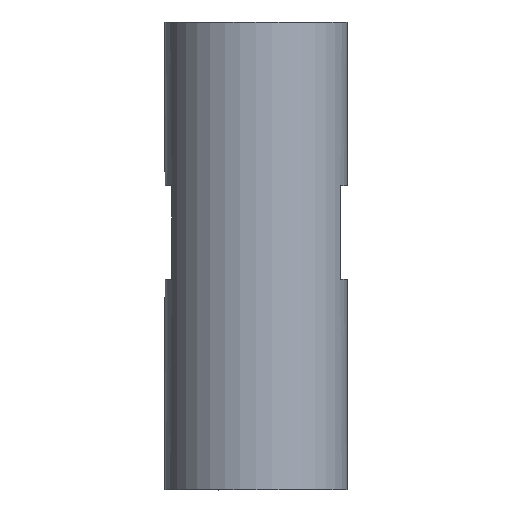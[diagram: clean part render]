
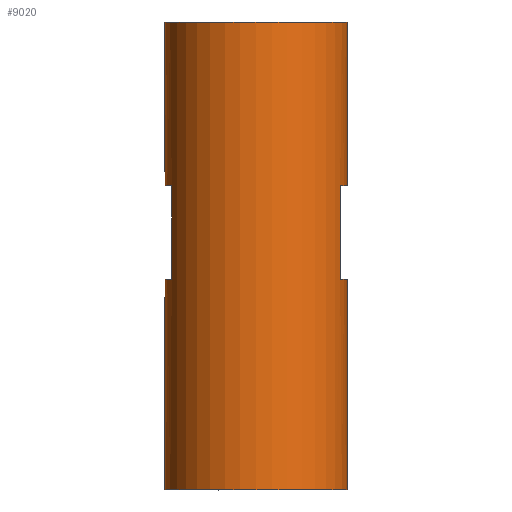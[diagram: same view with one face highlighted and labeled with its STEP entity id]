
A CAD part, front view. The second image highlights one B-rep face of the part: STEP entity #9020.
In plain terms, the highlighted cylindrical face has radius 39 mm (diameter 78 mm), a full revolution.
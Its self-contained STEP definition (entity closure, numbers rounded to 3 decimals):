
#5520=LINE('',#33374,#6911);
#5521=LINE('',#33379,#6912);
#5522=LINE('',#33385,#6913);
#5523=LINE('',#33389,#6914);
#5524=LINE('',#33390,#6915);
#5525=LINE('',#33403,#6916);
#6911=VECTOR('',#25776,1.);
#6912=VECTOR('',#25779,1.);
#6913=VECTOR('',#25784,1.);
#6914=VECTOR('',#25787,1.);
#6915=VECTOR('',#25788,1.);
#6916=VECTOR('',#25789,1.);
#8584=FACE_BOUND('',#11286,.T.);
#8585=FACE_BOUND('',#11287,.T.);
#8586=FACE_BOUND('',#11288,.T.);
#8587=FACE_BOUND('',#11289,.T.);
#8588=FACE_BOUND('',#11290,.T.);
#9020=ADVANCED_FACE('',(#8584,#8585,#8586,#8587,#8588),#10135,.T.);
#10135=CYLINDRICAL_SURFACE('',#24178,39.);
#11286=EDGE_LOOP('',(#13332));
#11287=EDGE_LOOP('',(#13333));
#11288=EDGE_LOOP('',(#13334,#13335,#13336,#13337));
#11289=EDGE_LOOP('',(#13338,#13339,#13340,#13341));
#11290=EDGE_LOOP('',(#13342,#13343,#13344,#13345));
#12640=CIRCLE('',#24171,39.);
#12641=CIRCLE('',#24173,39.);
#12642=CIRCLE('',#24174,39.);
#12643=CIRCLE('',#24175,39.);
#12644=CIRCLE('',#24176,39.);
#12645=CIRCLE('',#24177,39.);
#13332=ORIENTED_EDGE('',*,*,#20645,.T.);
#13333=ORIENTED_EDGE('',*,*,#20646,.T.);
#13334=ORIENTED_EDGE('',*,*,#20647,.F.);
#13335=ORIENTED_EDGE('',*,*,#20648,.T.);
#13336=ORIENTED_EDGE('',*,*,#20649,.F.);
#13337=ORIENTED_EDGE('',*,*,#20650,.T.);
#13338=ORIENTED_EDGE('',*,*,#20651,.T.);
#13339=ORIENTED_EDGE('',*,*,#20652,.F.);
#13340=ORIENTED_EDGE('',*,*,#20653,.T.);
#13341=ORIENTED_EDGE('',*,*,#20654,.F.);
#13342=ORIENTED_EDGE('',*,*,#20581,.F.);
#13343=ORIENTED_EDGE('',*,*,#20655,.F.);
#13344=ORIENTED_EDGE('',*,*,#20656,.T.);
#13345=ORIENTED_EDGE('',*,*,#20657,.F.);
#18725=VERTEX_POINT('',#30448);
#18726=VERTEX_POINT('',#30449);
#18769=VERTEX_POINT('',#33370);
#18770=VERTEX_POINT('',#33373);
#18771=VERTEX_POINT('',#33375);
#18772=VERTEX_POINT('',#33376);
#18773=VERTEX_POINT('',#33378);
#18774=VERTEX_POINT('',#33380);
#18775=VERTEX_POINT('',#33383);
#18776=VERTEX_POINT('',#33384);
#18777=VERTEX_POINT('',#33386);
#18778=VERTEX_POINT('',#33388);
#18779=VERTEX_POINT('',#33391);
#18780=VERTEX_POINT('',#33402);
#20581=EDGE_CURVE('',#18725,#18726,#23332,.T.);
#20645=EDGE_CURVE('',#18769,#18769,#12640,.T.);
#20646=EDGE_CURVE('',#18770,#18770,#12641,.T.);
#20647=EDGE_CURVE('',#18771,#18772,#5520,.T.);
#20648=EDGE_CURVE('',#18771,#18773,#12642,.T.);
#20649=EDGE_CURVE('',#18774,#18773,#5521,.T.);
#20650=EDGE_CURVE('',#18774,#18772,#12643,.T.);
#20651=EDGE_CURVE('',#18775,#18776,#12644,.T.);
#20652=EDGE_CURVE('',#18777,#18776,#5522,.T.);
#20653=EDGE_CURVE('',#18777,#18778,#12645,.T.);
#20654=EDGE_CURVE('',#18775,#18778,#5523,.T.);
#20655=EDGE_CURVE('',#18779,#18725,#5524,.T.);
#20656=EDGE_CURVE('',#18779,#18780,#23385,.T.);
#20657=EDGE_CURVE('',#18726,#18780,#5525,.T.);
#23332=B_SPLINE_CURVE_WITH_KNOTS('',3,(#30438,#30439,#30440,#30441,#30442,
#30443,#30444,#30445,#30446,#30447),.UNSPECIFIED.,.F.,.F.,(4,2,2,2,4),(0.,
0.25,0.5,0.75,1.),.UNSPECIFIED.);
#23385=B_SPLINE_CURVE_WITH_KNOTS('',3,(#33392,#33393,#33394,#33395,#33396,
#33397,#33398,#33399,#33400,#33401),.UNSPECIFIED.,.F.,.F.,(4,2,2,2,4),(0.,
0.25,0.5,0.75,1.),.UNSPECIFIED.);
#24171=AXIS2_PLACEMENT_3D('',#33369,#25770,#25771);
#24173=AXIS2_PLACEMENT_3D('',#33372,#25774,#25775);
#24174=AXIS2_PLACEMENT_3D('',#33377,#25777,#25778);
#24175=AXIS2_PLACEMENT_3D('',#33381,#25780,#25781);
#24176=AXIS2_PLACEMENT_3D('',#33382,#25782,#25783);
#24177=AXIS2_PLACEMENT_3D('',#33387,#25785,#25786);
#24178=AXIS2_PLACEMENT_3D('',#33404,#25790,#25791);
#25770=DIRECTION('',(0.,0.,1.));
#25771=DIRECTION('',(1.,0.,0.));
#25774=DIRECTION('',(0.,0.,-1.));
#25775=DIRECTION('',(1.,0.,0.));
#25776=DIRECTION('',(0.,0.,-1.));
#25777=DIRECTION('',(0.,0.,1.));
#25778=DIRECTION('',(-1.,0.,0.));
#25779=DIRECTION('',(0.,0.,1.));
#25780=DIRECTION('',(0.,0.,-1.));
#25781=DIRECTION('',(-0.923,-0.385,0.));
#25782=DIRECTION('',(0.,0.,1.));
#25783=DIRECTION('',(0.923,-0.385,0.));
#25784=DIRECTION('',(0.,0.,1.));
#25785=DIRECTION('',(0.,0.,-1.));
#25786=DIRECTION('',(1.,0.,0.));
#25787=DIRECTION('',(0.,0.,-1.));
#25788=DIRECTION('',(0.,0.,-1.));
#25789=DIRECTION('',(0.,0.,1.));
#25790=DIRECTION('',(0.,0.,-1.));
#25791=DIRECTION('',(-1.,0.,0.));
#30438=CARTESIAN_POINT('',(14.984,14.5,129.771));
#30439=CARTESIAN_POINT('',(13.133,15.272,127.672));
#30440=CARTESIAN_POINT('',(10.868,16.042,125.986));
#30441=CARTESIAN_POINT('',(5.745,17.161,123.642));
#30442=CARTESIAN_POINT('',(2.871,17.498,123.003));
#30443=CARTESIAN_POINT('',(-2.854,17.502,122.997));
#30444=CARTESIAN_POINT('',(-5.729,17.17,123.624));
#30445=CARTESIAN_POINT('',(-10.899,16.044,125.982));
#30446=CARTESIAN_POINT('',(-13.163,15.272,127.671));
#30447=CARTESIAN_POINT('',(-15.016,14.5,129.771));
#30448=CARTESIAN_POINT('',(14.984,14.5,129.771));
#30449=CARTESIAN_POINT('',(-15.016,14.5,129.771));
#33369=CARTESIAN_POINT('',(-0.016,-21.5,33.));
#33370=CARTESIAN_POINT('',(38.984,-21.5,33.));
#33372=CARTESIAN_POINT('',(-0.016,-21.5,233.));
#33373=CARTESIAN_POINT('',(38.984,-21.5,233.));
#33374=CARTESIAN_POINT('',(-36.016,-6.5,163.));
#33375=CARTESIAN_POINT('',(-36.016,-6.5,163.));
#33376=CARTESIAN_POINT('',(-36.016,-6.5,123.));
#33377=CARTESIAN_POINT('',(-0.016,-21.5,163.));
#33378=CARTESIAN_POINT('',(-36.016,-36.5,163.));
#33379=CARTESIAN_POINT('',(-36.016,-36.5,123.));
#33380=CARTESIAN_POINT('',(-36.016,-36.5,123.));
#33381=CARTESIAN_POINT('',(-0.016,-21.5,123.));
#33382=CARTESIAN_POINT('',(-0.016,-21.5,163.));
#33383=CARTESIAN_POINT('',(35.984,-36.5,163.));
#33384=CARTESIAN_POINT('',(35.984,-6.5,163.));
#33385=CARTESIAN_POINT('',(35.984,-6.5,123.));
#33386=CARTESIAN_POINT('',(35.984,-6.5,123.));
#33387=CARTESIAN_POINT('',(-0.016,-21.5,123.));
#33388=CARTESIAN_POINT('',(35.984,-36.5,123.));
#33389=CARTESIAN_POINT('',(35.984,-36.5,163.));
#33390=CARTESIAN_POINT('',(14.984,14.5,156.229));
#33391=CARTESIAN_POINT('',(14.984,14.5,156.229));
#33392=CARTESIAN_POINT('',(14.984,14.5,156.229));
#33393=CARTESIAN_POINT('',(13.133,15.272,158.328));
#33394=CARTESIAN_POINT('',(10.868,16.042,160.014));
#33395=CARTESIAN_POINT('',(5.745,17.161,162.358));
#33396=CARTESIAN_POINT('',(2.871,17.498,162.997));
#33397=CARTESIAN_POINT('',(-2.854,17.502,163.003));
#33398=CARTESIAN_POINT('',(-5.729,17.17,162.376));
#33399=CARTESIAN_POINT('',(-10.899,16.044,160.018));
#33400=CARTESIAN_POINT('',(-13.163,15.272,158.329));
#33401=CARTESIAN_POINT('',(-15.016,14.5,156.229));
#33402=CARTESIAN_POINT('',(-15.016,14.5,156.229));
#33403=CARTESIAN_POINT('',(-15.016,14.5,129.771));
#33404=CARTESIAN_POINT('',(-0.016,-21.5,243.));
